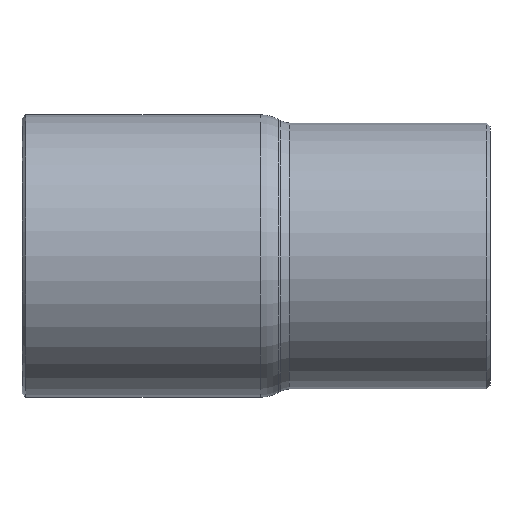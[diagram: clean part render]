
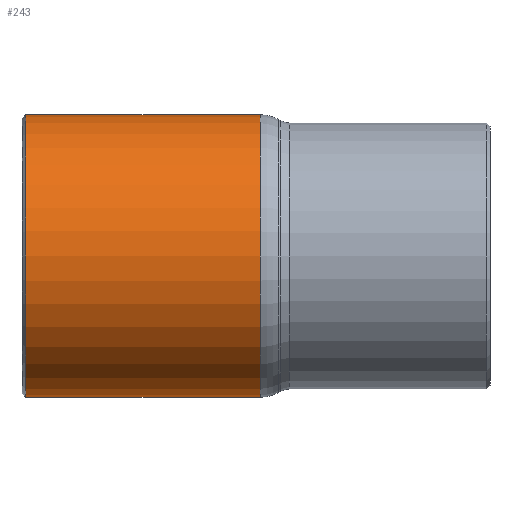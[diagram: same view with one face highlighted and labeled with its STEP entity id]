
A CAD part, front view. The second image highlights one B-rep face of the part: STEP entity #243.
In plain terms, the highlighted cylindrical face has radius 7.938 mm (diameter 15.875 mm), a full revolution.
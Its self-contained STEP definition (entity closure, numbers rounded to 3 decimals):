
#212=CARTESIAN_POINT('',(-16.7,7.938,0.));
#213=VERTEX_POINT('',#212);
#214=CARTESIAN_POINT('',(-16.7,0.0,0.0));
#215=DIRECTION('',(-1.0,0.0,0.0));
#216=DIRECTION('',(0.0,-1.0,0.0));
#217=AXIS2_PLACEMENT_3D('',#214,#215,#216);
#218=CIRCLE('',#217,7.938);
#219=EDGE_CURVE('',#213,#213,#218,.T.);
#224=CARTESIAN_POINT('',(-10.2,0.0,0.0));
#225=DIRECTION('',(1.0,0.0,0.0));
#226=DIRECTION('',(0.0,1.0,0.0));
#227=AXIS2_PLACEMENT_3D('',#224,#225,#226);
#228=CYLINDRICAL_SURFACE('',#227,7.938);
#229=CARTESIAN_POINT('',(-3.5,7.938,0.0));
#230=VERTEX_POINT('',#229);
#231=CARTESIAN_POINT('',(-3.5,0.0,0.0));
#232=DIRECTION('',(1.0,0.0,0.0));
#233=DIRECTION('',(0.0,1.0,0.0));
#234=AXIS2_PLACEMENT_3D('',#231,#232,#233);
#235=CIRCLE('',#234,7.938);
#236=EDGE_CURVE('',#230,#230,#235,.T.);
#237=ORIENTED_EDGE('',*,*,#236,.F.);
#238=EDGE_LOOP('',(#237));
#239=FACE_OUTER_BOUND('',#238,.T.);
#240=ORIENTED_EDGE('',*,*,#219,.F.);
#241=EDGE_LOOP('',(#240));
#242=FACE_BOUND('',#241,.T.);
#243=ADVANCED_FACE('',(#239,#242),#228,.T.);
